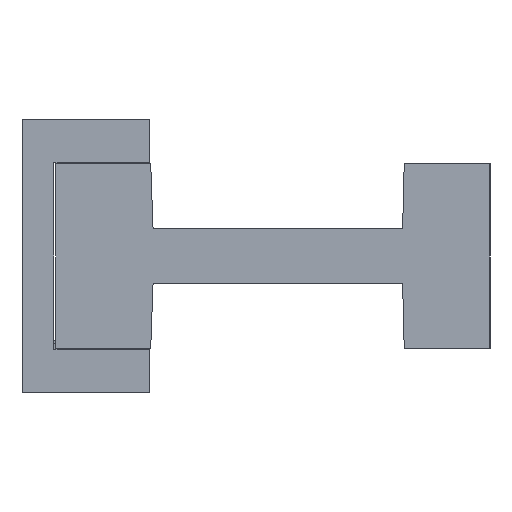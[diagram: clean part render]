
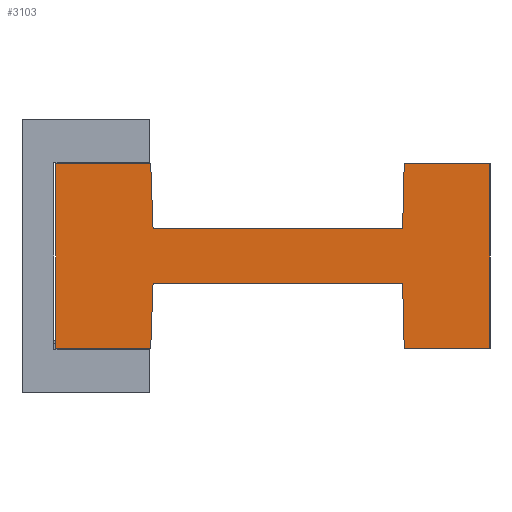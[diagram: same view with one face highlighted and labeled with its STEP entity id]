
A CAD part, left-side view. The second image highlights one B-rep face of the part: STEP entity #3103.
In plain terms, the highlighted planar face has unit normal (-1, 0, 0).
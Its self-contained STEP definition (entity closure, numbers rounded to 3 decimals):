
#25 = DIRECTION ( 'NONE',  ( 0., 1., 0. ) ) ;
#42 = CARTESIAN_POINT ( 'NONE',  ( -61.487, -16.8, 247.61 ) ) ;
#50 = CARTESIAN_POINT ( 'NONE',  ( -61.487, -4.3, 232.26 ) ) ;
#68 = CARTESIAN_POINT ( 'NONE',  ( -61.487, -16.8, 247.61 ) ) ;
#88 = CARTESIAN_POINT ( 'NONE',  ( -61.487, -16.8, 247.61 ) ) ;
#108 = LINE ( 'NONE', #1002, #4549 ) ;
#226 = VERTEX_POINT ( 'NONE', #684 ) ;
#311 = LINE ( 'NONE', #1975, #1917 ) ;
#330 = ORIENTED_EDGE ( 'NONE', *, *, #4219, .T. ) ;
#530 = CARTESIAN_POINT ( 'NONE',  ( -61.487, -4.3, 255.96 ) ) ;
#681 = EDGE_CURVE ( 'NONE', #1808, #728, #2041, .T. ) ;
#684 = CARTESIAN_POINT ( 'NONE',  ( -61.487, -16.5, 255.96 ) ) ;
#728 = VERTEX_POINT ( 'NONE', #50 ) ;
#737 = DIRECTION ( 'NONE',  ( 0., 0.024, -1. ) ) ;
#761 = ORIENTED_EDGE ( 'NONE', *, *, #2078, .F. ) ;
#791 = EDGE_CURVE ( 'NONE', #2409, #2636, #1822, .T. ) ;
#811 = ORIENTED_EDGE ( 'NONE', *, *, #1317, .T. ) ;
#963 = DIRECTION ( 'NONE',  ( 0., 1., 0. ) ) ;
#1002 = CARTESIAN_POINT ( 'NONE',  ( -61.487, -60., 255.96 ) ) ;
#1047 = CARTESIAN_POINT ( 'NONE',  ( -61.487, -16.8, 240.61 ) ) ;
#1055 = VECTOR ( 'NONE', #4450, 1000. ) ;
#1112 = LINE ( 'NONE', #3189, #2803 ) ;
#1158 = VECTOR ( 'NONE', #4679, 1000. ) ;
#1196 = FACE_OUTER_BOUND ( 'NONE', #2463, .T. ) ;
#1230 = ORIENTED_EDGE ( 'NONE', *, *, #3850, .T. ) ;
#1309 = VERTEX_POINT ( 'NONE', #4027 ) ;
#1317 = EDGE_CURVE ( 'NONE', #1309, #728, #5269, .T. ) ;
#1359 = EDGE_CURVE ( 'NONE', #2409, #4456, #311, .T. ) ;
#1363 = VERTEX_POINT ( 'NONE', #3235 ) ;
#1473 = CARTESIAN_POINT ( 'NONE',  ( -61.487, -60., 232.26 ) ) ;
#1552 = DIRECTION ( 'NONE',  ( -1., 0., 0. ) ) ;
#1576 = PLANE ( 'NONE',  #4451 ) ;
#1656 = ORIENTED_EDGE ( 'NONE', *, *, #681, .F. ) ;
#1672 = VERTEX_POINT ( 'NONE', #1949 ) ;
#1745 = LINE ( 'NONE', #1047, #1158 ) ;
#1758 = LINE ( 'NONE', #3052, #3771 ) ;
#1808 = VERTEX_POINT ( 'NONE', #4331 ) ;
#1822 = LINE ( 'NONE', #3453, #4861 ) ;
#1827 = ORIENTED_EDGE ( 'NONE', *, *, #5099, .T. ) ;
#1831 = DIRECTION ( 'NONE',  ( 0., 1., 0. ) ) ;
#1873 = VERTEX_POINT ( 'NONE', #1892 ) ;
#1892 = CARTESIAN_POINT ( 'NONE',  ( -61.487, -48.8, 247.61 ) ) ;
#1917 = VECTOR ( 'NONE', #3636, 1000. ) ;
#1930 = CARTESIAN_POINT ( 'NONE',  ( -61.487, -60., 244.11 ) ) ;
#1949 = CARTESIAN_POINT ( 'NONE',  ( -61.487, -16.8, 240.61 ) ) ;
#1954 = CARTESIAN_POINT ( 'NONE',  ( -61.487, -4.3, 255.96 ) ) ;
#1975 = CARTESIAN_POINT ( 'NONE',  ( -61.487, -60., 244.11 ) ) ;
#2041 = LINE ( 'NONE', #2468, #3023 ) ;
#2078 = EDGE_CURVE ( 'NONE', #1672, #1808, #1745, .T. ) ;
#2102 = ORIENTED_EDGE ( 'NONE', *, *, #3513, .F. ) ;
#2409 = VERTEX_POINT ( 'NONE', #1473 ) ;
#2463 = EDGE_LOOP ( 'NONE', ( #811, #1656, #761, #3200, #2102, #3018, #3705, #1230, #1827, #330, #4741, #4092 ) ) ;
#2468 = CARTESIAN_POINT ( 'NONE',  ( -61.487, -4.3, 232.26 ) ) ;
#2631 = LINE ( 'NONE', #530, #2717 ) ;
#2636 = VERTEX_POINT ( 'NONE', #2972 ) ;
#2700 = VECTOR ( 'NONE', #3795, 1000. ) ;
#2717 = VECTOR ( 'NONE', #1831, 1000. ) ;
#2803 = VECTOR ( 'NONE', #2810, 1000. ) ;
#2810 = DIRECTION ( 'NONE',  ( 0., 1., 0. ) ) ;
#2972 = CARTESIAN_POINT ( 'NONE',  ( -61.487, -49., 232.26 ) ) ;
#3018 = ORIENTED_EDGE ( 'NONE', *, *, #791, .F. ) ;
#3023 = VECTOR ( 'NONE', #25, 1000. ) ;
#3052 = CARTESIAN_POINT ( 'NONE',  ( -61.487, -48.8, 240.61 ) ) ;
#3102 = CARTESIAN_POINT ( 'NONE',  ( -61.487, -60., 255.96 ) ) ;
#3103 = ADVANCED_FACE ( 'NONE', ( #1196 ), #1576, .T. ) ;
#3189 = CARTESIAN_POINT ( 'NONE',  ( -61.487, -16.8, 240.61 ) ) ;
#3194 = LINE ( 'NONE', #3667, #4610 ) ;
#3200 = ORIENTED_EDGE ( 'NONE', *, *, #3306, .F. ) ;
#3235 = CARTESIAN_POINT ( 'NONE',  ( -61.487, -48.8, 240.61 ) ) ;
#3306 = EDGE_CURVE ( 'NONE', #1363, #1672, #1112, .T. ) ;
#3453 = CARTESIAN_POINT ( 'NONE',  ( -61.487, -60., 232.26 ) ) ;
#3513 = EDGE_CURVE ( 'NONE', #2636, #1363, #1758, .T. ) ;
#3542 = VERTEX_POINT ( 'NONE', #4311 ) ;
#3636 = DIRECTION ( 'NONE',  ( 0., 0., 1. ) ) ;
#3667 = CARTESIAN_POINT ( 'NONE',  ( -61.487, -48.8, 247.61 ) ) ;
#3705 = ORIENTED_EDGE ( 'NONE', *, *, #1359, .T. ) ;
#3771 = VECTOR ( 'NONE', #4661, 1000. ) ;
#3795 = DIRECTION ( 'NONE',  ( 0., 0.036, 0.999 ) ) ;
#3799 = LINE ( 'NONE', #68, #4185 ) ;
#3850 = EDGE_CURVE ( 'NONE', #4456, #3542, #108, .T. ) ;
#3864 = EDGE_CURVE ( 'NONE', #226, #1309, #2631, .T. ) ;
#3888 = DIRECTION ( 'NONE',  ( 0., 0., 1. ) ) ;
#4027 = CARTESIAN_POINT ( 'NONE',  ( -61.487, -4.3, 255.96 ) ) ;
#4092 = ORIENTED_EDGE ( 'NONE', *, *, #3864, .T. ) ;
#4185 = VECTOR ( 'NONE', #963, 1000. ) ;
#4219 = EDGE_CURVE ( 'NONE', #1873, #5210, #3799, .T. ) ;
#4232 = LINE ( 'NONE', #42, #2700 ) ;
#4311 = CARTESIAN_POINT ( 'NONE',  ( -61.487, -49., 255.96 ) ) ;
#4331 = CARTESIAN_POINT ( 'NONE',  ( -61.487, -16.5, 232.26 ) ) ;
#4450 = DIRECTION ( 'NONE',  ( 0., 0., -1. ) ) ;
#4451 = AXIS2_PLACEMENT_3D ( 'NONE', #1930, #1552, #3888 ) ;
#4456 = VERTEX_POINT ( 'NONE', #3102 ) ;
#4549 = VECTOR ( 'NONE', #5114, 1000. ) ;
#4610 = VECTOR ( 'NONE', #737, 1000. ) ;
#4661 = DIRECTION ( 'NONE',  ( 0., 0.024, 1. ) ) ;
#4679 = DIRECTION ( 'NONE',  ( 0., 0.036, -0.999 ) ) ;
#4741 = ORIENTED_EDGE ( 'NONE', *, *, #5207, .T. ) ;
#4861 = VECTOR ( 'NONE', #5106, 1000. ) ;
#5099 = EDGE_CURVE ( 'NONE', #3542, #1873, #3194, .T. ) ;
#5106 = DIRECTION ( 'NONE',  ( 0., 1., 0. ) ) ;
#5114 = DIRECTION ( 'NONE',  ( 0., 1., 0. ) ) ;
#5207 = EDGE_CURVE ( 'NONE', #5210, #226, #4232, .T. ) ;
#5210 = VERTEX_POINT ( 'NONE', #88 ) ;
#5269 = LINE ( 'NONE', #1954, #1055 ) ;
